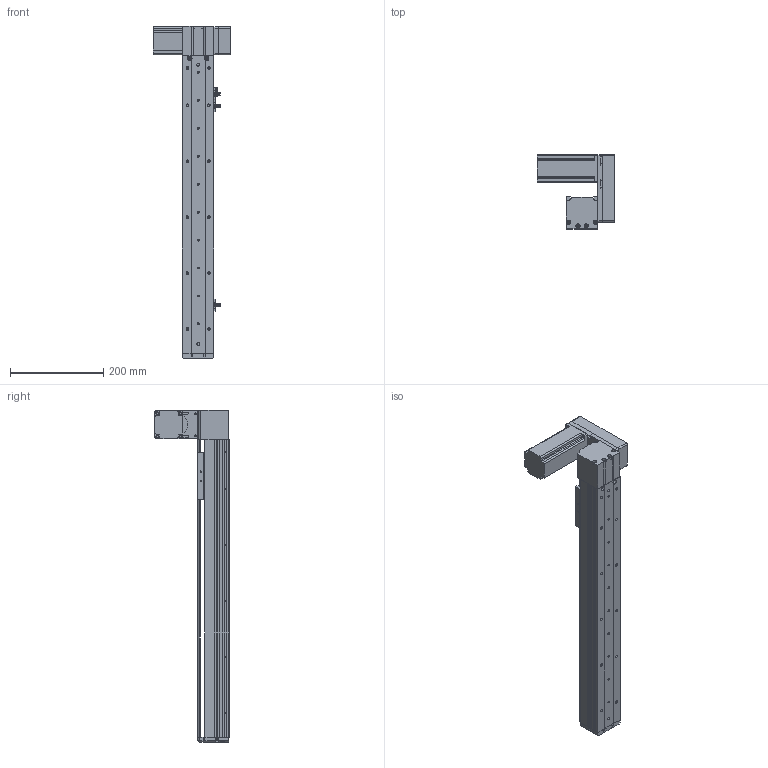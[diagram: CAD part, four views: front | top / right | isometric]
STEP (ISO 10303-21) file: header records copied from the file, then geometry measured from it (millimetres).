
FILE_DESCRIPTION (( 'STEP AP214' ), '1' );
FILE_NAME ('KSD68BS-S450-MLU-CM.STEP', '2019-11-06T06:18:12', ( '微软用户' ), ( '微软中国' ), 'SwSTEP 2.0', 'SolidWorks 2014', '' );
FILE_SCHEMA (( 'AUTOMOTIVE_DESIGN' ));
Length unit declared in the file: millimetre
Products named in the file (11): KSD68BS 450俴最菁啣圉猾敕; KSD68BS-S450-MLU-CM; 悵誘欶奻狟殏; 68宽马达安装板连板上折同步带; 台达ECMA－C20604AS伺服电机（400W); 68宽单导轨半封闭同步带主动轮座左; 68单导轨同步带半封闭端板; KSD68BS 450俴最裔啣圉猾敕; 覜茼え68遵圉猾敕; KSD68BS半封闭同步带传动导轨座; U倰嫖萇EEㄜSX672
Assembly tree (12 placements, depth 2):
  KSD68BS-S450-MLU-CM
    KSD68BS 450俴最菁啣圉猾敕
    台达ECMA－C20604AS伺服电机（400W)
    U倰嫖萇EEㄜSX672  x3
    KSD68BS半封闭同步带传动导轨座
    覜茼え68遵圉猾敕
    KSD68BS 450俴最裔啣圉猾敕
    68单导轨同步带半封闭端板
    68宽单导轨半封闭同步带主动轮座左
    68宽马达安装板连板上折同步带
    悵誘欶奻狟殏
Bounding box: 167.2 x 159.5 x 712 mm (x, y, z)
Volume: 1676515.7 mm3; surface area: 540357.8 mm2
Topology: 13 solids, 13 shells, 1292 faces, 3668 edges, 2382 vertices
Faces by surface type: cylinder 610, plane 599, cone 83
Entity records: 45272 total; most frequent: CARTESIAN_POINT 8350, DIRECTION 6130, ORIENTED_EDGE 6088, EDGE_CURVE 3044, AXIS2_PLACEMENT_3D 2202, VERTEX_POINT 2006, VECTOR 1726, LINE 1726
